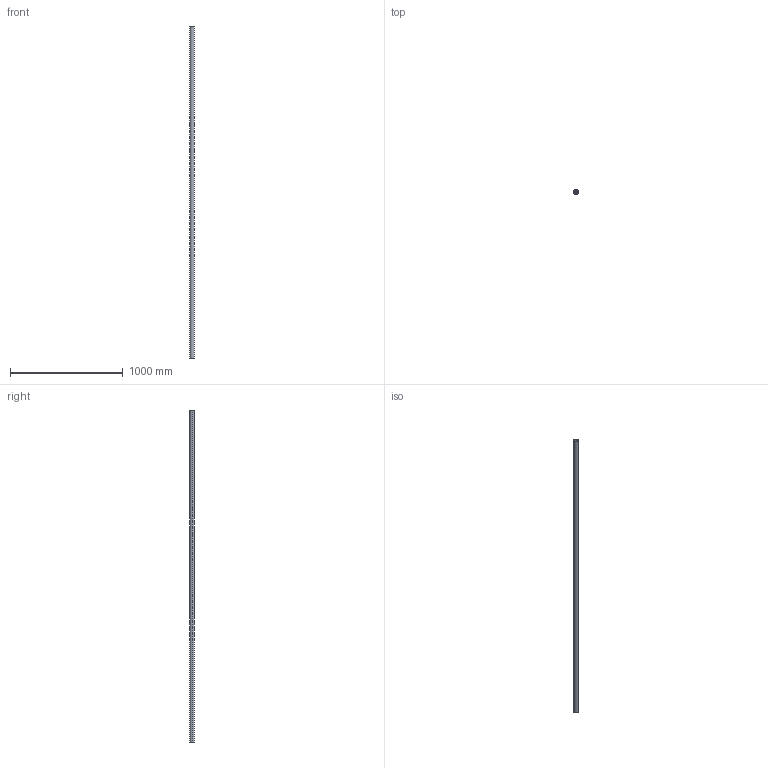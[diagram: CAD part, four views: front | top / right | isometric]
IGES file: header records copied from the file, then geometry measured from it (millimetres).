
Start section: SolidWorks IGES file using analytic representation for surfaces
Global section: file name: C:\Users\IanO\Desktop\L1771_v2\L1771.40_v2\L1771.40_v2_20230705_IGES\L1771.40-2950.igs; native system: SolidWorks 2019; preprocessor: SolidWorks 2019; author: IanO; date: 230705.161556; units: millimetre
Bounding box: 40 x 40 x 2950 mm (x, y, z)
Surface area: 631485.3 mm2 (no closed solid volume)
Topology: 0 solids, 0 shells, 6 faces, 272 edges, 272 vertices
Faces by surface type: revolution 4, bspline 2
